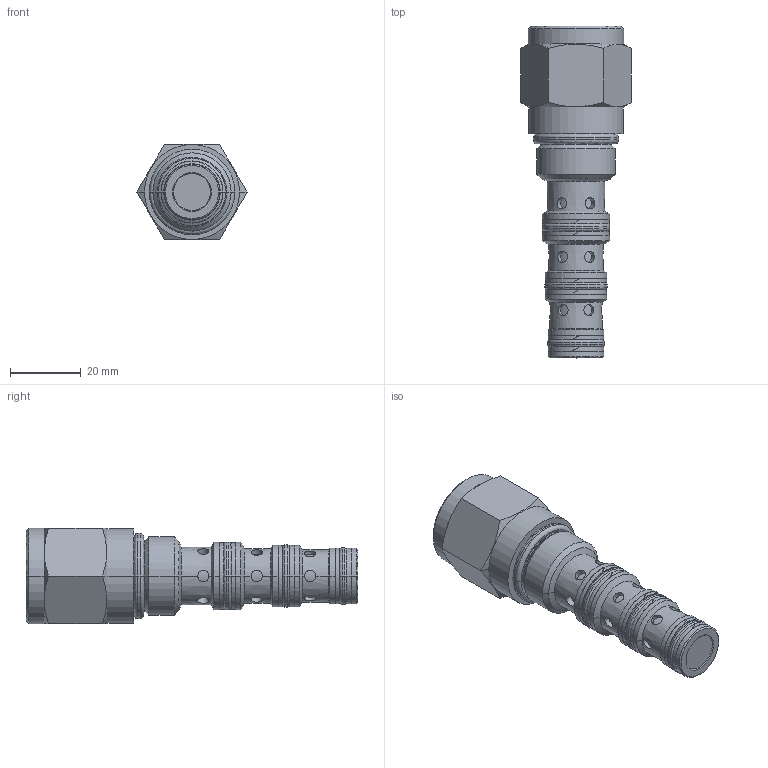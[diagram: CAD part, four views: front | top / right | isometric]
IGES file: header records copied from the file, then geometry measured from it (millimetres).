
Start section:  PTC IGES file: DCPS-10-A-F.igs
Global section: file name: DCPS-10-A-F.igs; native system: Creo Elements/Pro by Parametric Technology Corporation; preprocessor: 2015070; author: torrese; organization: Unknown; date: 20151221.141704; units: inch
Bounding box: 31.15 x 93.7 x 26.97 mm (x, y, z)
Volume: 33791.4 mm3; surface area: 8332.8 mm2
Topology: 1 solids, 1 shells, 193 faces, 432 edges, 263 vertices
Faces by surface type: revolution 157, bspline 36
